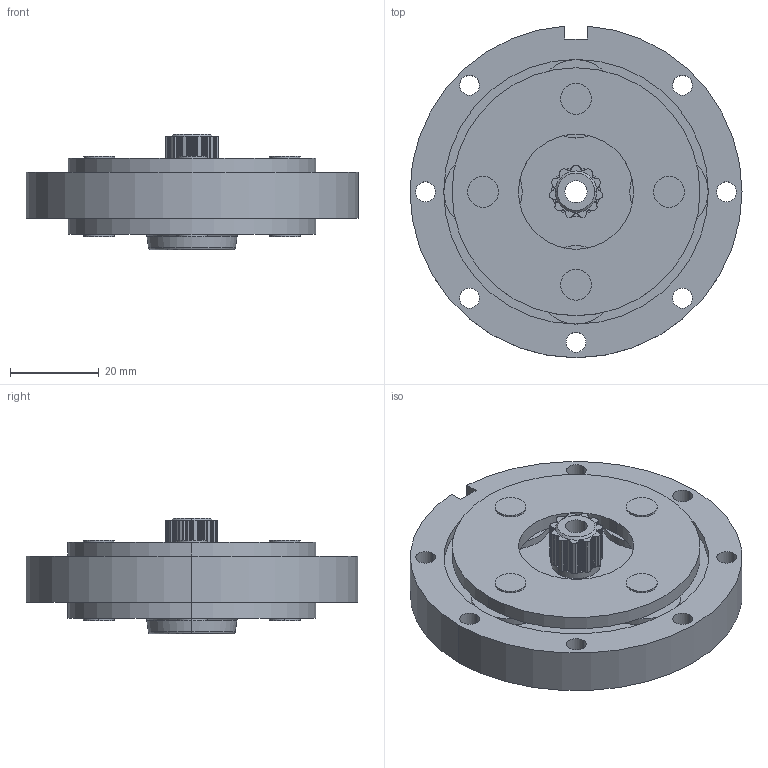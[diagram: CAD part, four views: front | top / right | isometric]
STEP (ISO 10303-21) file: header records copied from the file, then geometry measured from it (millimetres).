
FILE_DESCRIPTION (( 'STEP AP203' ), '1' );
FILE_NAME ('LGU75-3SLD.step', '2021-07-23T02:25:12', ( '' ), ( '' ), 'SwSTEP 2.0', 'SolidWorks 2021', '' );
FILE_SCHEMA (( 'CONFIG_CONTROL_DESIGN' ));
Length unit declared in the file: millimetre
Products named in the file (1): LGU75-3SLD
Bounding box: 75 x 74.92 x 26.15 mm (x, y, z)
Volume: 53246.8 mm3; surface area: 24601.1 mm2
Topology: 1 solids, 1 shells, 450 faces, 1243 edges, 820 vertices
Faces by surface type: cylinder 390, plane 52, cone 4, torus 4
Entity records: 14980 total; most frequent: DIRECTION 2985, CARTESIAN_POINT 2514, ORIENTED_EDGE 2486, AXIS2_PLACEMENT_3D 1291, EDGE_CURVE 1243, CIRCLE 840, VERTEX_POINT 820, EDGE_LOOP 507
